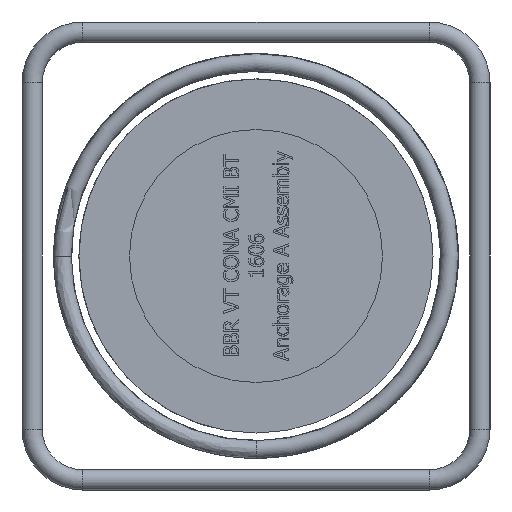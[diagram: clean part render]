
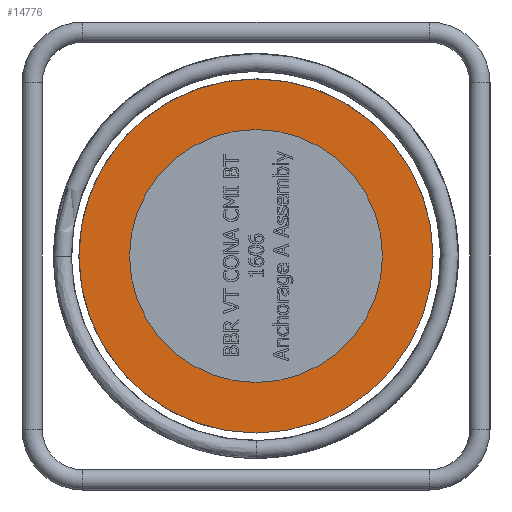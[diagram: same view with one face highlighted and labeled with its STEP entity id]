
A CAD part, left-side view. The second image highlights one B-rep face of the part: STEP entity #14776.
In plain terms, the highlighted planar face has unit normal (-1, 0, 0).
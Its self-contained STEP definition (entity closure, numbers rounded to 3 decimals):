
#100=FACE_BOUND('',#5154,.T.);
#1388=PLANE('',#15406);
#4314=FACE_OUTER_BOUND('',#5153,.T.);
#5153=EDGE_LOOP('',(#12695));
#5154=EDGE_LOOP('',(#12696));
#5335=CIRCLE('',#15323,100.);
#5389=CIRCLE('',#15405,140.);
#6748=VERTEX_POINT('',#25758);
#6812=VERTEX_POINT('',#26515);
#8691=EDGE_CURVE('',#6748,#6748,#5335,.T.);
#8792=EDGE_CURVE('',#6812,#6812,#5389,.T.);
#12695=ORIENTED_EDGE('',*,*,#8792,.T.);
#12696=ORIENTED_EDGE('',*,*,#8691,.T.);
#14776=ADVANCED_FACE('',(#4314,#100),#1388,.T.);
#15323=AXIS2_PLACEMENT_3D('',#25759,#17590,#17591);
#15405=AXIS2_PLACEMENT_3D('',#26516,#17769,#17770);
#15406=AXIS2_PLACEMENT_3D('',#26518,#17772,#17773);
#17590=DIRECTION('center_axis',(1.,0.,0.));
#17591=DIRECTION('ref_axis',(0.,0.,
1.));
#17769=DIRECTION('center_axis',(-1.,0.,0.));
#17770=DIRECTION('ref_axis',(0.,0.,1.));
#17772=DIRECTION('center_axis',(-1.,0.,0.));
#17773=DIRECTION('ref_axis',(0.,1.,0.));
#25758=CARTESIAN_POINT('',(-161.995,0.,-100.));
#25759=CARTESIAN_POINT('Origin',(-161.995,0.,
0.));
#26515=CARTESIAN_POINT('',(-161.995,0.,-140.));
#26516=CARTESIAN_POINT('Origin',(-161.995,0.,
0.));
#26518=CARTESIAN_POINT('Origin',(-161.995,0.,
111.));
